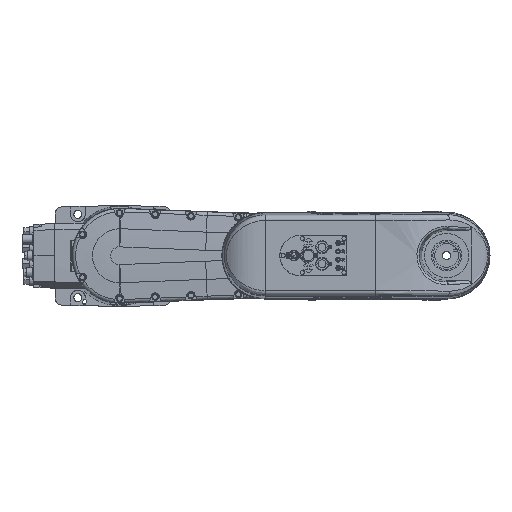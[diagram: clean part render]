
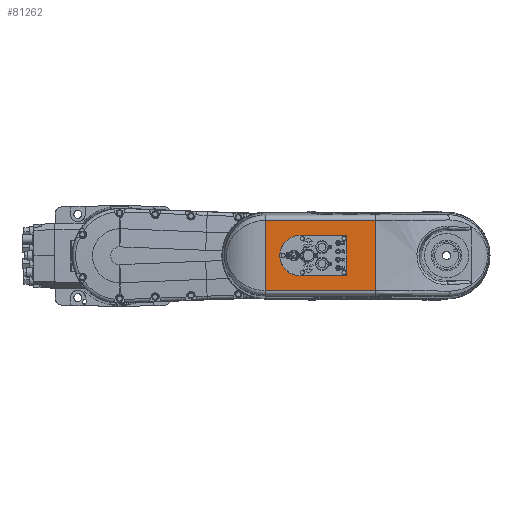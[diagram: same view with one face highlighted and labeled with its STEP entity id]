
A CAD part, top view. The second image highlights one B-rep face of the part: STEP entity #81262.
In plain terms, the highlighted planar face has unit normal (0, 0, 1).
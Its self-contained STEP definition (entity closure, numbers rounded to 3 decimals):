
#634 = CARTESIAN_POINT ( 'NONE',  ( 380.501, 34., 457.7 ) ) ;
#873 = DIRECTION ( 'NONE',  ( 1., 0., 0. ) ) ;
#1413 = CARTESIAN_POINT ( 'NONE',  ( 303.5, -34., 457.7 ) ) ;
#2817 = CARTESIAN_POINT ( 'NONE',  ( 245., -705.242, 457.7 ) ) ;
#4919 = CARTESIAN_POINT ( 'NONE',  ( 381.672, -34., 457.7 ) ) ;
#5005 = CARTESIAN_POINT ( 'NONE',  ( 382.5, 33.172, 457.7 ) ) ;
#6430 = FACE_BOUND ( 'NONE', #38194, .T. ) ;
#6709 = CARTESIAN_POINT ( 'NONE',  ( 382.5, 32.001, 457.7 ) ) ;
#6890 = VERTEX_POINT ( 'NONE', #78463 ) ;
#7320 = LINE ( 'NONE', #28319, #32749 ) ;
#9672 = EDGE_CURVE ( 'NONE', #47262, #27475, #55933, .T. ) ;
#10812 = VECTOR ( 'NONE', #873, 1000. ) ;
#11657 = ORIENTED_EDGE ( 'NONE', *, *, #12254, .T. ) ;
#11816 = CARTESIAN_POINT ( 'NONE',  ( 380.501, 34., 457.7 ) ) ;
#12121 = EDGE_CURVE ( 'NONE', #82584, #74563, #33541, .T. ) ;
#12147 = CARTESIAN_POINT ( 'NONE',  ( 380.501, -34., 457.7 ) ) ;
#12254 = EDGE_CURVE ( 'NONE', #29950, #81978, #92116, .T. ) ;
#12750 = CARTESIAN_POINT ( 'NONE',  ( 303.5, 34., 457.7 ) ) ;
#13894 = DIRECTION ( 'NONE',  ( 0., 0., 1. ) ) ;
#14313 = VECTOR ( 'NONE', #82098, 1000. ) ;
#15087 = ORIENTED_EDGE ( 'NONE', *, *, #22477, .T. ) ;
#17073 = ORIENTED_EDGE ( 'NONE', *, *, #78933, .F. ) ;
#19059 = EDGE_CURVE ( 'NONE', #29950, #30162, #89106, .T. ) ;
#19545 =( BOUNDED_CURVE ( )  B_SPLINE_CURVE ( 3, ( #634, #49143, #5005, #6709 ),
 .UNSPECIFIED., .F., .T. ) 
 B_SPLINE_CURVE_WITH_KNOTS ( ( 4, 4 ),
 ( 2.357, 3.927 ),
 .UNSPECIFIED. ) 
 CURVE ( )  GEOMETRIC_REPRESENTATION_ITEM ( )  RATIONAL_B_SPLINE_CURVE ( ( 1., 0.805, 0.805, 1. ) ) 
 REPRESENTATION_ITEM ( '' )  );
#21007 = VERTEX_POINT ( 'NONE', #72803 ) ;
#22477 = EDGE_CURVE ( 'NONE', #21007, #30162, #7320, .T. ) ;
#23119 = EDGE_CURVE ( 'NONE', #81978, #21007, #41206, .T. ) ;
#23889 = EDGE_CURVE ( 'NONE', #86293, #47262, #43038, .T. ) ;
#27475 = VERTEX_POINT ( 'NONE', #1413 ) ;
#28185 = CARTESIAN_POINT ( 'NONE',  ( 430., -59.156, 457.7 ) ) ;
#28319 = CARTESIAN_POINT ( 'NONE',  ( 245., 59.156, 457.7 ) ) ;
#28782 = DIRECTION ( 'NONE',  ( -1., 0., 0. ) ) ;
#29203 = ORIENTED_EDGE ( 'NONE', *, *, #59311, .T. ) ;
#29950 = VERTEX_POINT ( 'NONE', #69899 ) ;
#30162 = VERTEX_POINT ( 'NONE', #72647 ) ;
#30197 = CARTESIAN_POINT ( 'NONE',  ( 382.5, -32.001, 457.7 ) ) ;
#32749 = VECTOR ( 'NONE', #28782, 1000. ) ;
#33541 =( BOUNDED_CURVE ( )  B_SPLINE_CURVE ( 3, ( #61319, #53899, #4919, #41293 ),
 .UNSPECIFIED., .F., .T. ) 
 B_SPLINE_CURVE_WITH_KNOTS ( ( 4, 4 ),
 ( 2.357, 3.927 ),
 .UNSPECIFIED. ) 
 CURVE ( )  GEOMETRIC_REPRESENTATION_ITEM ( )  RATIONAL_B_SPLINE_CURVE ( ( 1., 0.805, 0.805, 1. ) ) 
 REPRESENTATION_ITEM ( '' )  );
#34875 = CARTESIAN_POINT ( 'NONE',  ( 245., 0., 457.7 ) ) ;
#35260 = ORIENTED_EDGE ( 'NONE', *, *, #23119, .T. ) ;
#38194 = EDGE_LOOP ( 'NONE', ( #60358, #29203, #17073, #70045, #42585, #55715 ) ) ;
#38719 = ORIENTED_EDGE ( 'NONE', *, *, #19059, .F. ) ;
#41206 = LINE ( 'NONE', #84107, #92155 ) ;
#41293 = CARTESIAN_POINT ( 'NONE',  ( 380.501, -34., 457.7 ) ) ;
#41574 = EDGE_CURVE ( 'NONE', #27475, #74563, #85331, .T. ) ;
#42585 = ORIENTED_EDGE ( 'NONE', *, *, #41574, .F. ) ;
#43038 = LINE ( 'NONE', #85934, #65090 ) ;
#44025 = AXIS2_PLACEMENT_3D ( 'NONE', #47398, #75879, #55319 ) ;
#44675 = VECTOR ( 'NONE', #71095, 1000. ) ;
#47262 = VERTEX_POINT ( 'NONE', #12750 ) ;
#47398 = CARTESIAN_POINT ( 'NONE',  ( 303.5, 0., 457.7 ) ) ;
#49143 = CARTESIAN_POINT ( 'NONE',  ( 381.672, 34., 457.7 ) ) ;
#50188 = LINE ( 'NONE', #79593, #61400 ) ;
#50768 = CARTESIAN_POINT ( 'NONE',  ( 382.5, -34., 457.7 ) ) ;
#53899 = CARTESIAN_POINT ( 'NONE',  ( 382.5, -33.172, 457.7 ) ) ;
#55319 = DIRECTION ( 'NONE',  ( 0., 1., 0. ) ) ;
#55715 = ORIENTED_EDGE ( 'NONE', *, *, #9672, .F. ) ;
#55933 = CIRCLE ( 'NONE', #44025, 34. ) ;
#59311 = EDGE_CURVE ( 'NONE', #86293, #6890, #19545, .T. ) ;
#60358 = ORIENTED_EDGE ( 'NONE', *, *, #23889, .F. ) ;
#61319 = CARTESIAN_POINT ( 'NONE',  ( 382.5, -32.001, 457.7 ) ) ;
#61400 = VECTOR ( 'NONE', #85664, 1000. ) ;
#65090 = VECTOR ( 'NONE', #71489, 1000. ) ;
#69899 = CARTESIAN_POINT ( 'NONE',  ( 245., -59.156, 457.7 ) ) ;
#70045 = ORIENTED_EDGE ( 'NONE', *, *, #12121, .T. ) ;
#70331 = DIRECTION ( 'NONE',  ( 1., 0., 0. ) ) ;
#71095 = DIRECTION ( 'NONE',  ( 1., 0., 0. ) ) ;
#71489 = DIRECTION ( 'NONE',  ( -1., 0., 0. ) ) ;
#71698 = PLANE ( 'NONE',  #83815 ) ;
#72647 = CARTESIAN_POINT ( 'NONE',  ( 245., 59.156, 457.7 ) ) ;
#72803 = CARTESIAN_POINT ( 'NONE',  ( 430., 59.156, 457.7 ) ) ;
#74563 = VERTEX_POINT ( 'NONE', #12147 ) ;
#74728 = EDGE_LOOP ( 'NONE', ( #35260, #15087, #38719, #11657 ) ) ;
#75879 = DIRECTION ( 'NONE',  ( 0., 0., 1. ) ) ;
#76649 = CARTESIAN_POINT ( 'NONE',  ( 430., -59.156, 457.7 ) ) ;
#77317 = FACE_OUTER_BOUND ( 'NONE', #74728, .T. ) ;
#78463 = CARTESIAN_POINT ( 'NONE',  ( 382.5, 32.001, 457.7 ) ) ;
#78933 = EDGE_CURVE ( 'NONE', #82584, #6890, #50188, .T. ) ;
#79593 = CARTESIAN_POINT ( 'NONE',  ( 382.5, 34., 457.7 ) ) ;
#81262 = ADVANCED_FACE ( 'NONE', ( #6430, #77317 ), #71698, .T. ) ;
#81978 = VERTEX_POINT ( 'NONE', #76649 ) ;
#82098 = DIRECTION ( 'NONE',  ( 0., 1., 0. ) ) ;
#82584 = VERTEX_POINT ( 'NONE', #30197 ) ;
#82729 = DIRECTION ( 'NONE',  ( 0., 1., 0. ) ) ;
#83815 = AXIS2_PLACEMENT_3D ( 'NONE', #34875, #13894, #70331 ) ;
#84107 = CARTESIAN_POINT ( 'NONE',  ( 430., -705.455, 457.7 ) ) ;
#85331 = LINE ( 'NONE', #50768, #10812 ) ;
#85664 = DIRECTION ( 'NONE',  ( 0., 1., 0. ) ) ;
#85934 = CARTESIAN_POINT ( 'NONE',  ( 382.5, 34., 457.7 ) ) ;
#86293 = VERTEX_POINT ( 'NONE', #11816 ) ;
#89106 = LINE ( 'NONE', #2817, #14313 ) ;
#92116 = LINE ( 'NONE', #28185, #44675 ) ;
#92155 = VECTOR ( 'NONE', #82729, 1000. ) ;
